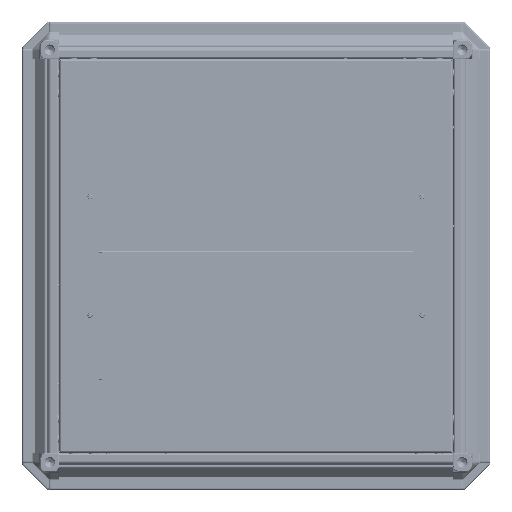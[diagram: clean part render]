
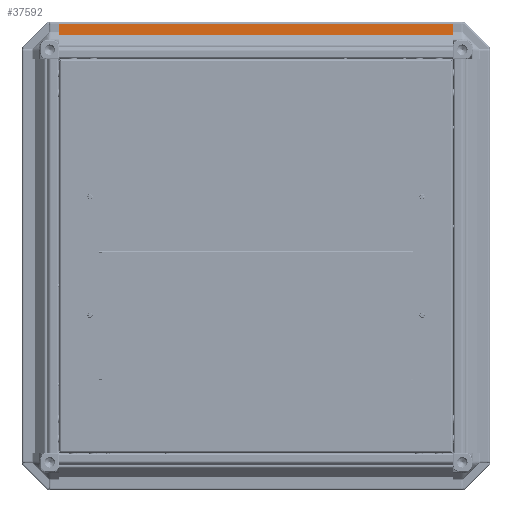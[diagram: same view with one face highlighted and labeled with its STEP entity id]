
A CAD part, front view. The second image highlights one B-rep face of the part: STEP entity #37592.
In plain terms, the highlighted planar face has unit normal (0, -1, 0) as drawn and (-0.707, -0.707, 0) by its records, which use the part's own axes.
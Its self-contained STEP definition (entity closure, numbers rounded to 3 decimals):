
#1193 = CARTESIAN_POINT ( 'NONE',  ( 22.386, -7.932, 498. ) ) ;
#1458 = DIRECTION ( 'NONE',  ( 0., 0., -1. ) ) ;
#1496 = DIRECTION ( 'NONE',  ( 0.707, -0.707, 0. ) ) ;
#1764 = CARTESIAN_POINT ( 'NONE',  ( 12.747, 1.707, 0. ) ) ;
#4433 = PLANE ( 'NONE',  #43990 ) ;
#9446 = CARTESIAN_POINT ( 'NONE',  ( 12.747, 1.707, 498. ) ) ;
#10158 = VECTOR ( 'NONE', #1458, 1000. ) ;
#11712 = VECTOR ( 'NONE', #45412, 1000. ) ;
#11878 = VERTEX_POINT ( 'NONE', #17034 ) ;
#13824 = DIRECTION ( 'NONE',  ( 0., 0., -1. ) ) ;
#14913 = CARTESIAN_POINT ( 'NONE',  ( 12.747, 1.707, 498. ) ) ;
#15604 = CARTESIAN_POINT ( 'NONE',  ( 22.386, -7.932, 0. ) ) ;
#17034 = CARTESIAN_POINT ( 'NONE',  ( 12.747, 1.707, 0. ) ) ;
#20231 = LINE ( 'NONE', #1764, #48135 ) ;
#23840 = VERTEX_POINT ( 'NONE', #15604 ) ;
#24960 = CARTESIAN_POINT ( 'NONE',  ( 12.747, 1.707, 498. ) ) ;
#27353 = ORIENTED_EDGE ( 'NONE', *, *, #42923, .T. ) ;
#27811 = ORIENTED_EDGE ( 'NONE', *, *, #33500, .T. ) ;
#28283 = FACE_OUTER_BOUND ( 'NONE', #32689, .T. ) ;
#28845 = LINE ( 'NONE', #24960, #45246 ) ;
#32689 = EDGE_LOOP ( 'NONE', ( #27811, #40678, #35347, #27353 ) ) ;
#33500 = EDGE_CURVE ( 'NONE', #11878, #23840, #20231, .T. ) ;
#35347 = ORIENTED_EDGE ( 'NONE', *, *, #46611, .F. ) ;
#37592 = ADVANCED_FACE ( 'NONE', ( #28283 ), #4433, .F. ) ;
#38162 = LINE ( 'NONE', #9446, #11712 ) ;
#38479 = EDGE_CURVE ( 'NONE', #44949, #23840, #44710, .T. ) ;
#40678 = ORIENTED_EDGE ( 'NONE', *, *, #38479, .F. ) ;
#40806 = CARTESIAN_POINT ( 'NONE',  ( 22.386, -7.932, 498. ) ) ;
#42923 = EDGE_CURVE ( 'NONE', #44198, #11878, #28845, .T. ) ;
#43990 = AXIS2_PLACEMENT_3D ( 'NONE', #14913, #46493, #44317 ) ;
#44198 = VERTEX_POINT ( 'NONE', #50306 ) ;
#44317 = DIRECTION ( 'NONE',  ( -0.707, 0.707, 0. ) ) ;
#44710 = LINE ( 'NONE', #1193, #10158 ) ;
#44949 = VERTEX_POINT ( 'NONE', #40806 ) ;
#45246 = VECTOR ( 'NONE', #13824, 1000. ) ;
#45412 = DIRECTION ( 'NONE',  ( 0.707, -0.707, 0. ) ) ;
#46493 = DIRECTION ( 'NONE',  ( 0.707, 0.707, 0. ) ) ;
#46611 = EDGE_CURVE ( 'NONE', #44198, #44949, #38162, .T. ) ;
#48135 = VECTOR ( 'NONE', #1496, 1000. ) ;
#50306 = CARTESIAN_POINT ( 'NONE',  ( 12.747, 1.707, 498. ) ) ;
